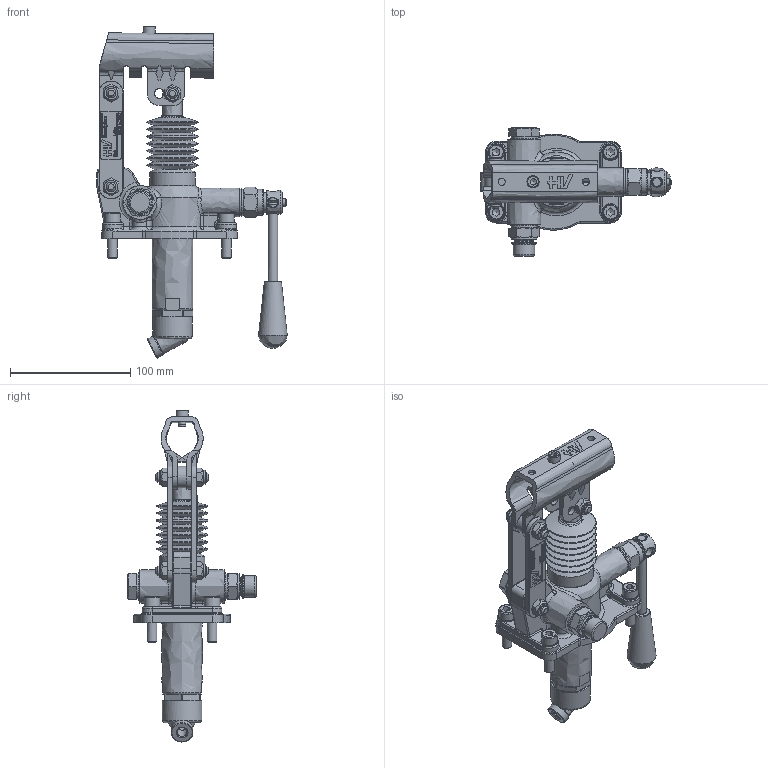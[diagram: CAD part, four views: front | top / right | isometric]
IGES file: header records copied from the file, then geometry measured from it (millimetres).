
Global section: file name: No Iges File Name specified; native system: Autodesk Inventor 2013; preprocessor: AutoDesk Inventor Iges Exporter R2013; author: christian.scardovi; date: 20240228.121716; units: millimetre
Bounding box: 158.5 x 106.5 x 276.08 mm (x, y, z)
Volume: 427299 mm3; surface area: 124167.8 mm2
Topology: 3 solids, 3 shells, 1431 faces, 3635 edges, 2302 vertices
Faces by surface type: bspline 1431
